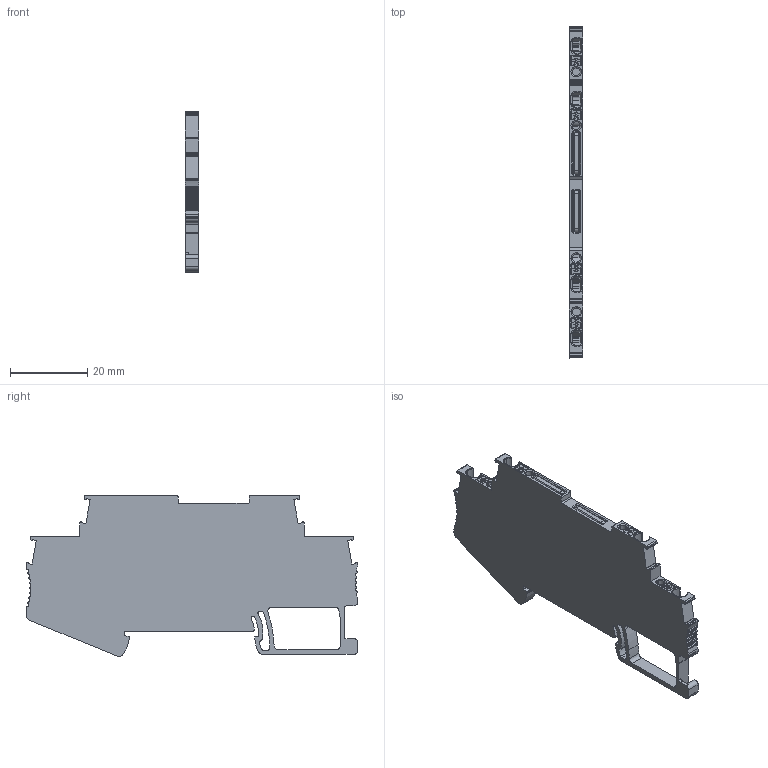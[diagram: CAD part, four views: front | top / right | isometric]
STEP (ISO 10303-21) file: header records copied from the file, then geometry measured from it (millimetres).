
FILE_DESCRIPTION((''),'2;1');
FILE_NAME('UPT-1_5-2K_ASSY','2024-03-29T16:08:58',('Administrator'),(''),'CREO PARAMETRIC BY PTC INC, 2018050','CREO PARAMETRIC BY PTC INC, 2018050','');
FILE_SCHEMA(('CONFIG_CONTROL_DESIGN'));
Length unit declared in the file: millimetre
Products named in the file (1): UPT-1_5-2K_ASSY
Bounding box: 3.5 x 86 x 41.6 mm (x, y, z)
Volume: 8470.8 mm3; surface area: 8071.8 mm2
Topology: 1 solids, 8 shells, 1473 faces, 3990 edges, 2496 vertices
Faces by surface type: plane 655, cylinder 576, cone 78, torus 72, sphere 64, extrusion 16, bspline 12
Entity records: 49002 total; most frequent: CARTESIAN_POINT 11937, ORIENTED_EDGE 7860, DIRECTION 7746, EDGE_CURVE 3930, AXIS2_PLACEMENT_3D 2689, VERTEX_POINT 2496, VECTOR 2368, LINE 2352
